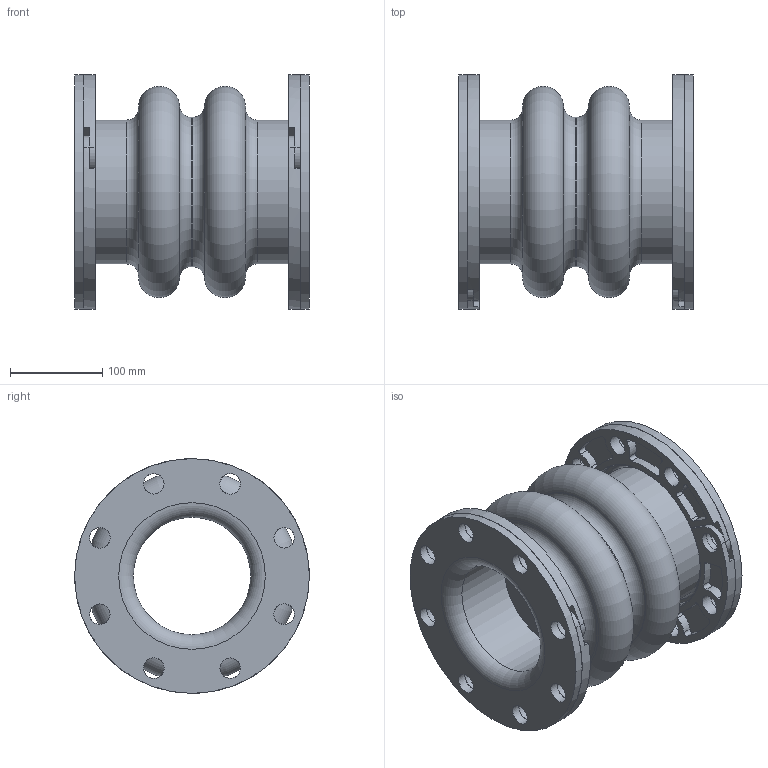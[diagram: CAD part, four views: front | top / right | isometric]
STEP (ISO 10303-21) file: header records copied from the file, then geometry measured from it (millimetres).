
FILE_DESCRIPTION(/* description */ (''),/* implementation_level */ '2;1');
FILE_NAME(/* name */ 'C:\001_Work\Designs\Mercer2014\MQInventor2014\RajR\500 Style\502\STP\502 5IDx10FF.stp',/* time_stamp */ '2016-03-16T14:32:01-04:00',/* author */ ('mquog'),/* organization */ (''),/* preprocessor_version */ 'ST-DEVELOPER v15.2',/* originating_system */ 'Autodesk Inventor 2014',/* authorisation */ '');
FILE_SCHEMA (('AUTOMOTIVE_DESIGN { 1 0 10303 214 3 1 1 }'));
Length unit declared in the file: centimetre
Products named in the file (1): 502 5IDx10FF
Bounding box: 254 x 254 x 254 mm (x, y, z)
Volume: 3623914.8 mm3; surface area: 679741.3 mm2
Topology: 3 solids, 3 shells, 284 faces, 748 edges, 484 vertices
Faces by surface type: cylinder 188, plane 68, torus 20, cone 8
Full cylindrical faces by diameter (mm): 22.225 x36, 127 x3, 155.575 x2, 161.925 x1, 254 x2
Entity records: 9208 total; most frequent: DIRECTION 1674, CARTESIAN_POINT 1621, ORIENTED_EDGE 1360, AXIS2_PLACEMENT_3D 725, EDGE_CURVE 680, VERTEX_POINT 480, CIRCLE 440, EDGE_LOOP 432
